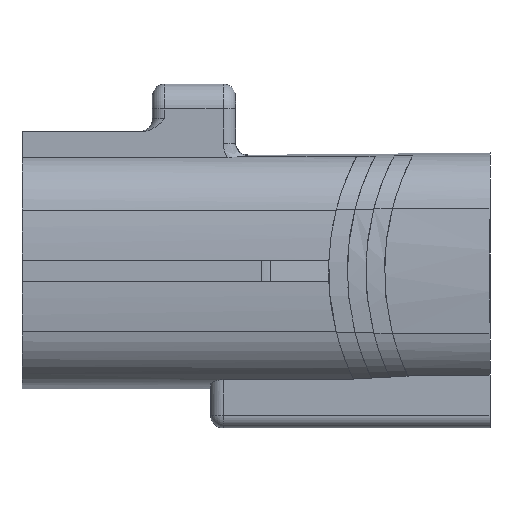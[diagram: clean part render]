
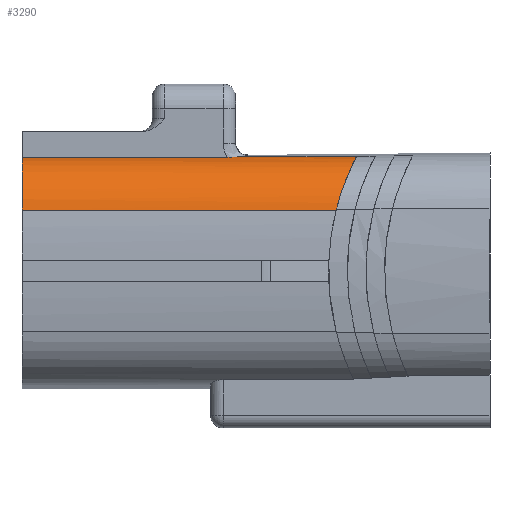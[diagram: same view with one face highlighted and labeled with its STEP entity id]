
A CAD part, front view. The second image highlights one B-rep face of the part: STEP entity #3290.
In plain terms, the highlighted cylindrical face has radius 5.1 mm (diameter 10.2 mm), a partial arc.
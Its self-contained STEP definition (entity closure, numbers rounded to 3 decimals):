
#141=CARTESIAN_POINT('Line Origine',(5.76,-6.186,0.546)) ;
#145=CARTESIAN_POINT('Vertex',(-13.7,-6.186,0.546)) ;
#147=CARTESIAN_POINT('Vertex',(11.609,-6.186,0.546)) ;
#1391=CARTESIAN_POINT('Vertex',(13.234,-1.896,4.836)) ;
#1395=CARTESIAN_POINT('Control Point',(13.234,-1.896,4.836)) ;
#1396=CARTESIAN_POINT('Control Point',(13.132,-3.22,4.638)) ;
#1397=CARTESIAN_POINT('Control Point',(12.805,-4.459,4.001)) ;
#1398=CARTESIAN_POINT('Control Point',(12.349,-5.388,3.033)) ;
#1399=CARTESIAN_POINT('Control Point',(11.934,-5.993,1.834)) ;
#1400=CARTESIAN_POINT('Control Point',(11.609,-6.186,0.546)) ;
#2656=CARTESIAN_POINT('Axis2P3D Location',(-13.7,-1.142,-0.208)) ;
#2660=CARTESIAN_POINT('Vertex',(-13.7,-2.15,4.791)) ;
#3232=CARTESIAN_POINT('Control Point',(2.861,-2.15,4.791)) ;
#3233=CARTESIAN_POINT('Control Point',(3.114,-2.15,4.791)) ;
#3234=CARTESIAN_POINT('Control Point',(3.355,-2.092,4.803)) ;
#3235=CARTESIAN_POINT('Control Point',(3.561,-2.,4.82)) ;
#3236=CARTESIAN_POINT('Control Point',(3.741,-1.896,4.836)) ;
#3237=CARTESIAN_POINT('Vertex',(2.861,-2.15,4.791)) ;
#3239=CARTESIAN_POINT('Vertex',(3.741,-1.896,4.836)) ;
#3268=CARTESIAN_POINT('Axis2P3D Location',(5.76,-1.142,-0.208)) ;
#3273=CARTESIAN_POINT('Line Origine',(5.76,-1.896,4.836)) ;
#3279=CARTESIAN_POINT('Control Point',(-13.7,-2.15,4.791)) ;
#3280=CARTESIAN_POINT('Control Point',(2.861,-2.15,4.791)) ;
#142=DIRECTION('Vector Direction',(-1.,0.,0.)) ;
#2657=DIRECTION('Axis2P3D Direction',(-1.,0.,0.)) ;
#3269=DIRECTION('Axis2P3D Direction',(-1.,0.,0.)) ;
#3270=DIRECTION('Axis2P3D XDirection',(0.,-0.989,0.148)) ;
#3274=DIRECTION('Vector Direction',(-1.,0.,0.)) ;
#2658=AXIS2_PLACEMENT_3D('Circle Axis2P3D',#2656,#2657,$) ;
#3271=AXIS2_PLACEMENT_3D('Cylinder Axis2P3D',#3268,#3269,#3270) ;
#3283=ORIENTED_EDGE('',*,*,#2662,.F.) ;
#3284=ORIENTED_EDGE('',*,*,#149,.T.) ;
#3285=ORIENTED_EDGE('',*,*,#1401,.F.) ;
#3286=ORIENTED_EDGE('',*,*,#3277,.F.) ;
#3287=ORIENTED_EDGE('',*,*,#3241,.F.) ;
#3288=ORIENTED_EDGE('',*,*,#3281,.T.) ;
#143=VECTOR('Line Direction',#142,1.) ;
#3275=VECTOR('Line Direction',#3274,1.) ;
#3290=ADVANCED_FACE('\X2\FF8AFF9FFF70FF82\X0\ \X2\FF8EFF9EFF83FF9EFF68FF70\X0\',(#3289),#3272,.T.) ;
#1394=B_SPLINE_CURVE_WITH_KNOTS('',5,(#1395,#1396,#1397,#1398,#1399,#1400),.UNSPECIFIED.,.F.,.U.,(6,6),(0.,9.488),.UNSPECIFIED.) ;
#3231=B_SPLINE_CURVE_WITH_KNOTS('',4,(#3232,#3233,#3234,#3235,#3236),.UNSPECIFIED.,.F.,.U.,(5,5),(0.,1.324),.UNSPECIFIED.) ;
#3278=B_SPLINE_CURVE_WITH_KNOTS('',1,(#3279,#3280),.UNSPECIFIED.,.F.,.U.,(2,2),(-17.7,-1.139),.UNSPECIFIED.) ;
#2659=CIRCLE('generated circle',#2658,5.1) ;
#3272=CYLINDRICAL_SURFACE('generated cylinder',#3271,5.1) ;
#149=EDGE_CURVE('',#146,#148,#144,.F.) ;
#1401=EDGE_CURVE('',#1392,#148,#1394,.T.) ;
#2662=EDGE_CURVE('',#146,#2661,#2659,.T.) ;
#3241=EDGE_CURVE('',#3238,#3240,#3231,.T.) ;
#3277=EDGE_CURVE('',#3240,#1392,#3276,.F.) ;
#3281=EDGE_CURVE('',#3238,#2661,#3278,.F.) ;
#3282=EDGE_LOOP('',(#3283,#3284,#3285,#3286,#3287,#3288)) ;
#3289=FACE_OUTER_BOUND('',#3282,.T.) ;
#144=LINE('Line',#141,#143) ;
#3276=LINE('Line',#3273,#3275) ;
#146=VERTEX_POINT('',#145) ;
#148=VERTEX_POINT('',#147) ;
#1392=VERTEX_POINT('',#1391) ;
#2661=VERTEX_POINT('',#2660) ;
#3238=VERTEX_POINT('',#3237) ;
#3240=VERTEX_POINT('',#3239) ;
